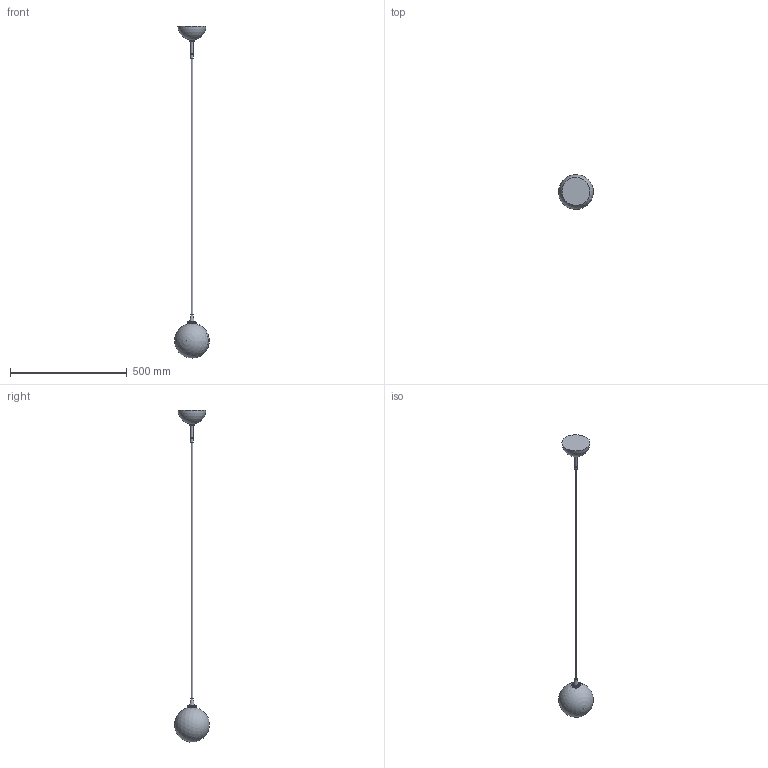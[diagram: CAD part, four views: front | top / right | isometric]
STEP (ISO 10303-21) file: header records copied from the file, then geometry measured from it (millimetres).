
FILE_DESCRIPTION(/* description */ (''),/* implementation_level */ '2;1');
FILE_NAME(/* name */ 'T:\B074 Glass Globe Pendant 150\Pliki bryłowe handlowe\B074 Glass Globe 150 3D files_na stronę\B074 Glass Globe 150.stp',/* time_stamp */ '2022-02-02T12:34:47+01:00',/* author */ ('Mariusz Awariusz'),/* organization */ (''),/* preprocessor_version */ 'ST-DEVELOPER v18.1',/* originating_system */ 'Autodesk Inventor 2022',/* authorisation */ '');
FILE_SCHEMA (('AUTOMOTIVE_DESIGN { 1 0 10303 214 3 1 1 }'));
Length unit declared in the file: millimetre
Products named in the file (1): Glass Globe Pendant 150 CE v3_na potrzeby plików 3D_2_jako część_
korpusy bryłowe
Bounding box: 149.4 x 149.75 x 1424.04 mm (x, y, z)
Volume: 658623.6 mm3; surface area: 208516 mm2
Topology: 16 solids, 16 shells, 118 faces, 217 edges, 136 vertices
Faces by surface type: plane 45, cylinder 33, cone 32, torus 4, sphere 4
Full cylindrical faces by diameter (mm): 2.693 x3, 3 x3, 4 x5, 5.5 x3, 6 x1, 7 x1, 8.6 x2, 10 x3, 11 x1, 11.917 x1, 12.6 x1, 13 x2, 13.3 x1, 14 x1, 18 x1, 19.8 x1, 20 x1, 33 x1, 35 x1
Entity records: 3039 total; most frequent: CARTESIAN_POINT 586, DIRECTION 559, ORIENTED_EDGE 426, AXIS2_PLACEMENT_3D 241, EDGE_CURVE 213, VERTEX_POINT 136, EDGE_LOOP 135, CIRCLE 122
